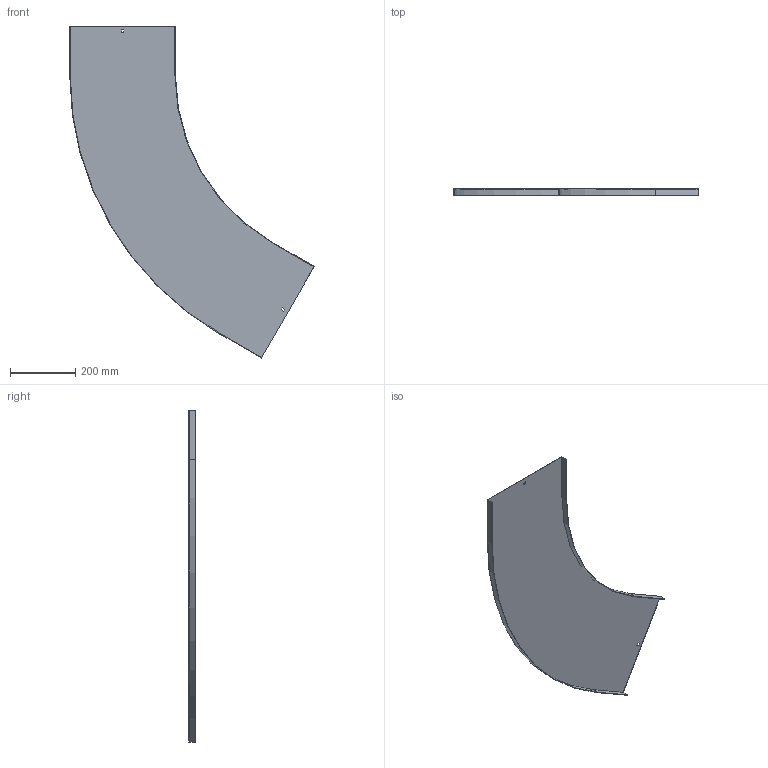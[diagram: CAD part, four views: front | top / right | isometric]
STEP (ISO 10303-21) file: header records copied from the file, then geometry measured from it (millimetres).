
FILE_DESCRIPTION (( 'STEP AP214' ), '1' );
FILE_NAME ('13N6P300.step', '2025-02-21T13:36:02', ( '' ), ( '' ), 'SwSTEP 2.0', 'SolidWorks 2023', '' );
FILE_SCHEMA (( 'AUTOMOTIVE_DESIGN' ));
Length unit declared in the file: millimetre
Products named in the file (1): 13N6P300
Bounding box: 747.15 x 20 x 1014.38 mm (x, y, z)
Volume: 585939.5 mm3; surface area: 785681.9 mm2
Topology: 1 solids, 1 shells, 26 faces, 72 edges, 48 vertices
Faces by surface type: plane 22, cylinder 4
Entity records: 855 total; most frequent: CARTESIAN_POINT 147, ORIENTED_EDGE 144, DIRECTION 134, EDGE_CURVE 72, LINE 64, VECTOR 64, VERTEX_POINT 48, AXIS2_PLACEMENT_3D 35
